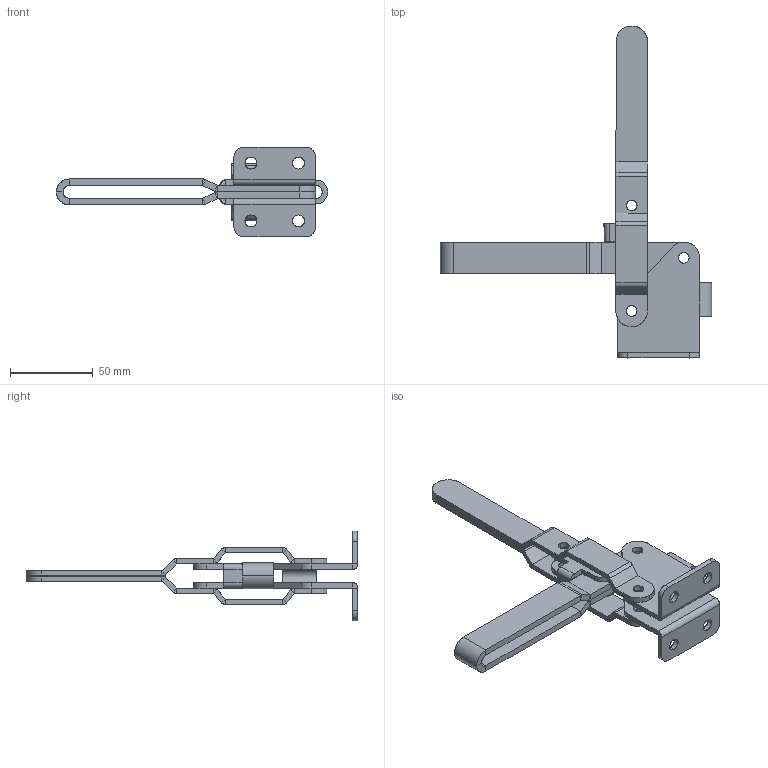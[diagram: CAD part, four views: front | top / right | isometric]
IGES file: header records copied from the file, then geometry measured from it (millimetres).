
Start section: SolidWorks IGES file using analytic representation for surfaces
Global section: file name: D:\GH Files\GH-SW-FILES\GH1\GH-12205, 12210,12220,12215\GH-12205.IGS; native system: SolidWorks 2006 by SolidWorks Corporation; preprocessor: SolidWorks 2006 by SolidWorks Corporation; author: Administrator; date: 060824.142755; units: millimetre
Bounding box: 163.35 x 200 x 54 mm (x, y, z)
Surface area: 52112.4 mm2 (no closed solid volume)
Topology: 0 solids, 0 shells, 278 faces, 3120 edges, 3120 vertices
Faces by surface type: bspline 168, revolution 110
